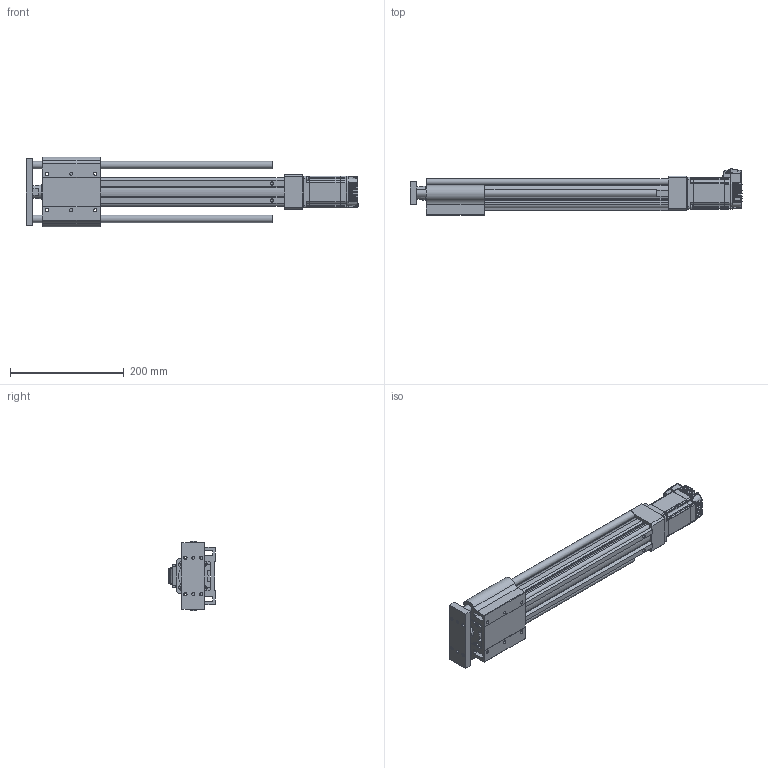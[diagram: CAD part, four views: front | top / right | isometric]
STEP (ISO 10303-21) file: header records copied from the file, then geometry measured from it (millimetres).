
FILE_DESCRIPTION (( 'STEP AP214' ), '1' );
FILE_NAME ('LEYG3(+)-32LDNM1□-300-23L.STEP', '2023-04-14T06:45:09', ( '' ), ( '' ), 'SwSTEP 2.0', 'SolidWorks 2019', '' );
FILE_SCHEMA (( 'AUTOMOTIVE_DESIGN' ));
Length unit declared in the file: millimetre
Products named in the file (6): LEYG3(+)-32LNM1□_ATTACH_300; CM3(+)-23L50A_2-M4_01; LEYG3(+)-32LDNM1□-300-23L; LEYG3(+)-32NM1?_BODY_300; LEY3(+)-32DNM1_MOTOR Flange; LEYG3(+)-32LNM1?_ROD_300
Assembly tree (5 placements, depth 2):
  LEYG3(+)-32LDNM1□-300-23L
    LEYG3(+)-32NM1?_BODY_300
    LEYG3(+)-32LNM1?_ROD_300
    LEYG3(+)-32LNM1□_ATTACH_300
    LEY3(+)-32DNM1_MOTOR Flange
    CM3(+)-23L50A_2-M4_01
Bounding box: 584.8 x 81.05 x 122.98 mm (x, y, z)
Volume: 1810547.3 mm3; surface area: 348679.1 mm2
Topology: 5 solids, 14 shells, 1511 faces, 3903 edges, 2420 vertices
Faces by surface type: plane 703, cylinder 463, bspline 133, cone 107, torus 58, sphere 47
Full cylindrical faces by diameter (mm): 2.5 x4, 3 x2, 3.2 x4, 4.2 x1, 4.5 x7, 4.9 x10, 5 x1, 6.2 x4, 6.35 x1, 7 x2, 8 x2, 13 x2, 24.5 x1, 25 x2, 32 x2, 38.1 x1
Entity records: 51432 total; most frequent: CARTESIAN_POINT 13035, ORIENTED_EDGE 7492, DIRECTION 6969, EDGE_CURVE 3746, VERTEX_POINT 2396, AXIS2_PLACEMENT_3D 2376, LINE 2217, VECTOR 2217
